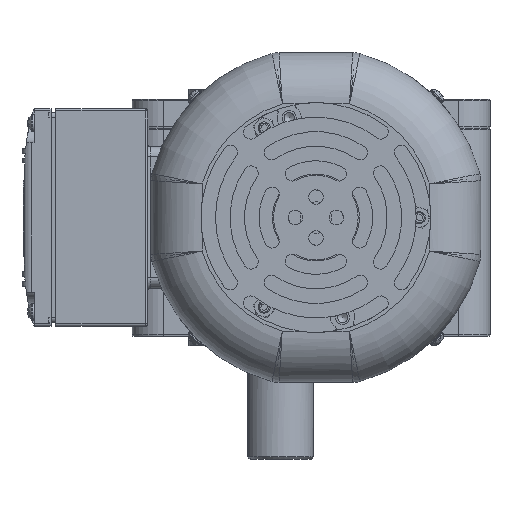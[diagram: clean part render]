
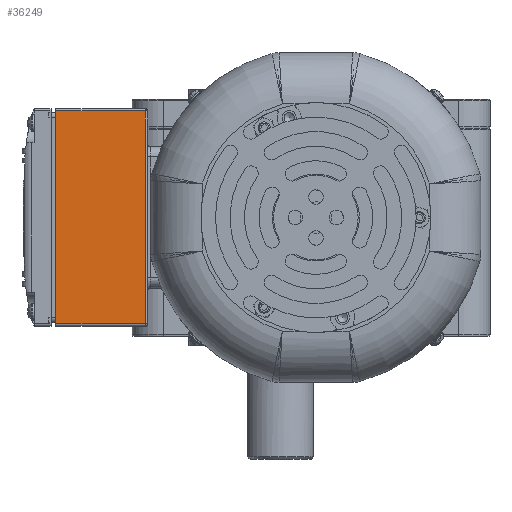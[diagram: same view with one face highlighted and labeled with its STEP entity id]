
A CAD part, left-side view. The second image highlights one B-rep face of the part: STEP entity #36249.
In plain terms, the highlighted planar face has unit normal (-1, 0, 0).
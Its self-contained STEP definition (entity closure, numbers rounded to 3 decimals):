
#3012=PLANE('',#38885);
#4218=FACE_OUTER_BOUND('',#6383,.T.);
#6383=EDGE_LOOP('',(#27192,#27193,#27194,#27195));
#8979=LINE('',#58117,#11693);
#8980=LINE('',#58119,#11694);
#8981=LINE('',#58121,#11695);
#8982=LINE('',#58122,#11696);
#11693=VECTOR('',#44891,10.);
#11694=VECTOR('',#44892,10.);
#11695=VECTOR('',#44893,10.);
#11696=VECTOR('',#44894,10.);
#16747=VERTEX_POINT('',#58115);
#16748=VERTEX_POINT('',#58116);
#16749=VERTEX_POINT('',#58118);
#16750=VERTEX_POINT('',#58120);
#20600=EDGE_CURVE('',#16747,#16748,#8979,.T.);
#20601=EDGE_CURVE('',#16749,#16747,#8980,.T.);
#20602=EDGE_CURVE('',#16749,#16750,#8981,.T.);
#20603=EDGE_CURVE('',#16748,#16750,#8982,.T.);
#27192=ORIENTED_EDGE('',*,*,#20600,.F.);
#27193=ORIENTED_EDGE('',*,*,#20601,.F.);
#27194=ORIENTED_EDGE('',*,*,#20602,.T.);
#27195=ORIENTED_EDGE('',*,*,#20603,.F.);
#36249=ADVANCED_FACE('',(#4218),#3012,.T.);
#38885=AXIS2_PLACEMENT_3D('',#58114,#44889,#44890);
#44889=DIRECTION('center_axis',(-1.,0.,0.));
#44890=DIRECTION('ref_axis',(0.,1.,0.));
#44891=DIRECTION('',(0.,0.,-1.));
#44892=DIRECTION('',(0.,-1.,0.));
#44893=DIRECTION('',(0.,0.,-1.));
#44894=DIRECTION('',(0.,1.,0.));
#58114=CARTESIAN_POINT('Origin',(-250.5,54.5,45.065));
#58115=CARTESIAN_POINT('',(-250.5,55.5,44.065));
#58116=CARTESIAN_POINT('',(-250.5,55.5,-43.935));
#58117=CARTESIAN_POINT('',(-250.5,55.5,22.565));
#58118=CARTESIAN_POINT('',(-250.5,92.5,44.065));
#58119=CARTESIAN_POINT('',(-250.5,54.5,44.065));
#58120=CARTESIAN_POINT('',(-250.5,92.5,-43.935));
#58121=CARTESIAN_POINT('',(-250.5,92.5,-44.935));
#58122=CARTESIAN_POINT('',(-250.5,54.5,-43.935));
